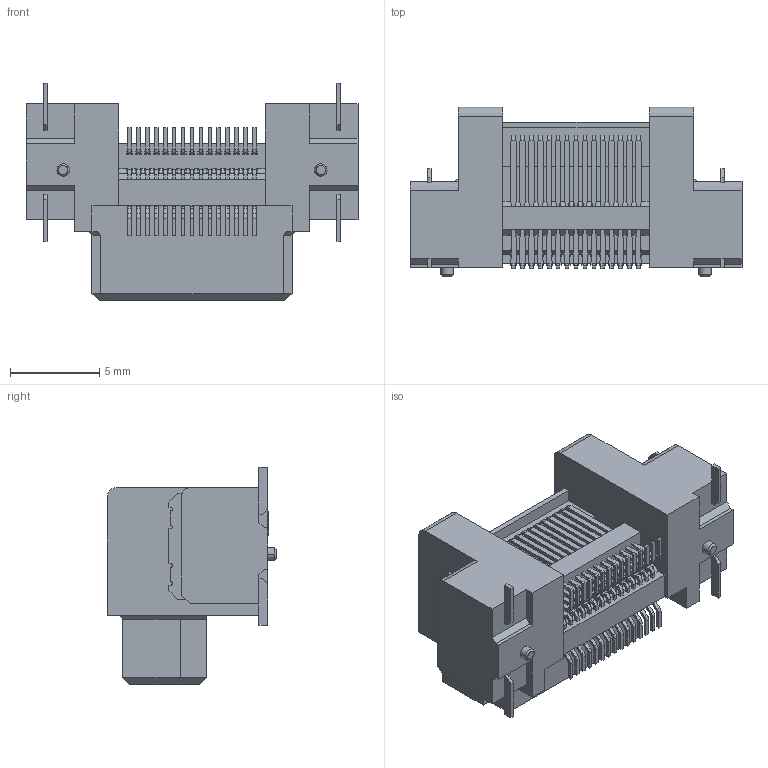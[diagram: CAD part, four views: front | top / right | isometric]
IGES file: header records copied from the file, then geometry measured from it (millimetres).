
Start section: Elysium IGES Interface
Global section: file name: 54HC:\Users\1314\Desktop\temp\回覧用-一時的\DT11-030L.igs; native system: CoCreate Modeling 17.0B  09-Oct-2010; preprocessor: CoCreate IGES_3D V2.2; author: Unknown; organization: Unknown; date: 20170519.132808; units: millimetre
Bounding box: 18.62 x 9.5 x 12.2 mm (x, y, z)
Volume: 825.5 mm3; surface area: 1109.9 mm2
Topology: 1 solids, 1 shells, 1894 faces, 5303 edges, 3444 vertices
Faces by surface type: bspline 1894
